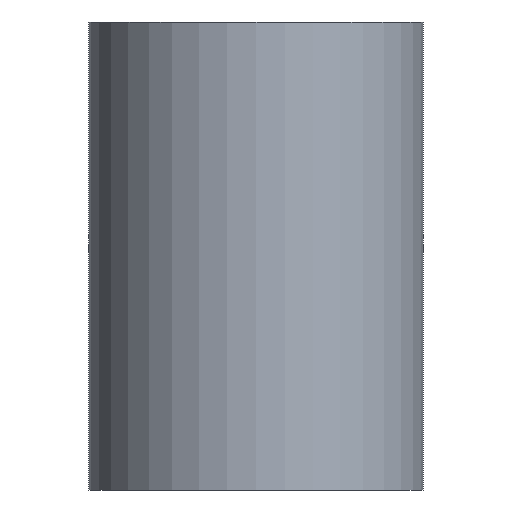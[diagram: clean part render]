
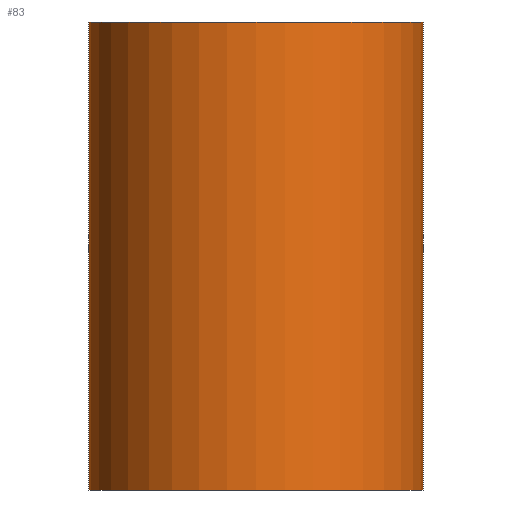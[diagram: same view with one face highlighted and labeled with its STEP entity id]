
A CAD part, front view. The second image highlights one B-rep face of the part: STEP entity #83.
In plain terms, the highlighted cylindrical face has radius 5 mm (diameter 10 mm), a full revolution.
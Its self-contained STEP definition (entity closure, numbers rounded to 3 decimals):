
#34=LINE('',#167,#36);
#36=VECTOR('',#139,5.);
#38=CYLINDRICAL_SURFACE('',#113,5.);
#43=FACE_OUTER_BOUND('',#48,.T.);
#48=EDGE_LOOP('',(#73,#74,#75,#76));
#51=CIRCLE('',#109,5.);
#54=CIRCLE('',#114,5.);
#57=VERTEX_POINT('',#156);
#60=VERTEX_POINT('',#165);
#61=EDGE_CURVE('',#57,#57,#51,.T.);
#65=EDGE_CURVE('',#60,#60,#54,.T.);
#66=EDGE_CURVE('',#60,#57,#34,.T.);
#73=ORIENTED_EDGE('',*,*,#65,.F.);
#74=ORIENTED_EDGE('',*,*,#66,.T.);
#75=ORIENTED_EDGE('',*,*,#61,.F.);
#76=ORIENTED_EDGE('',*,*,#66,.F.);
#83=ADVANCED_FACE('',(#43),#38,.T.);
#109=AXIS2_PLACEMENT_3D('',#157,#126,#127);
#113=AXIS2_PLACEMENT_3D('',#164,#135,#136);
#114=AXIS2_PLACEMENT_3D('',#166,#137,#138);
#126=DIRECTION('center_axis',(0.,0.,-1.));
#127=DIRECTION('ref_axis',(1.,0.,0.));
#135=DIRECTION('center_axis',(0.,0.,1.));
#136=DIRECTION('ref_axis',(1.,0.,0.));
#137=DIRECTION('center_axis',(0.,0.,1.));
#138=DIRECTION('ref_axis',(1.,0.,0.));
#139=DIRECTION('',(0.,0.,-1.));
#156=CARTESIAN_POINT('',(-5.,0.,-7.));
#157=CARTESIAN_POINT('Origin',(0.,0.,-7.));
#164=CARTESIAN_POINT('Origin',(0.,0.,0.));
#165=CARTESIAN_POINT('',(-5.,0.,7.));
#166=CARTESIAN_POINT('Origin',(0.,0.,7.));
#167=CARTESIAN_POINT('',(-5.,0.,0.));
